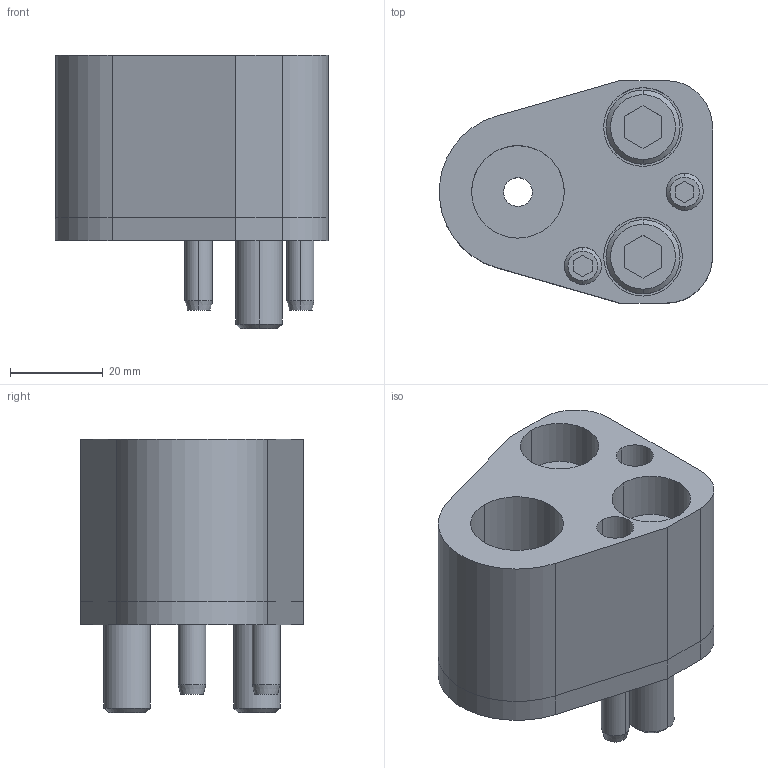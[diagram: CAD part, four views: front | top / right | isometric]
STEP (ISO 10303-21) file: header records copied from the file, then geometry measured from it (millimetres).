
FILE_DESCRIPTION(/* description */ (''),/* implementation_level */ '2;1');
FILE_NAME(/* name */ '3d_hap-ap20_02770_r00.stp',/* time_stamp */ '2011-01-10T14:14:58+09:00',/* author */ ('MISUMI'),/* organization */ (''),/* preprocessor_version */ 'ST-DEVELOPER v11',/* originating_system */ 'UGS - NX 5.0',/* authorisation */ '');
FILE_SCHEMA (('CONFIG_CONTROL_DESIGN'));
Length unit declared in the file: millimetre
Products named in the file (1): 3d_hap-ap20_02770_r00
Bounding box: 58.94 x 48 x 59 mm (x, y, z)
Volume: 74532.3 mm3; surface area: 28845.7 mm2
Topology: 8 solids, 8 shells, 155 faces, 346 edges, 222 vertices
Faces by surface type: plane 67, cylinder 62, cone 26
Entity records: 4474 total; most frequent: DIRECTION 804, CARTESIAN_POINT 772, ORIENTED_EDGE 692, EDGE_CURVE 346, AXIS2_PLACEMENT_3D 306, VERTEX_POINT 222, LINE 192, VECTOR 192
